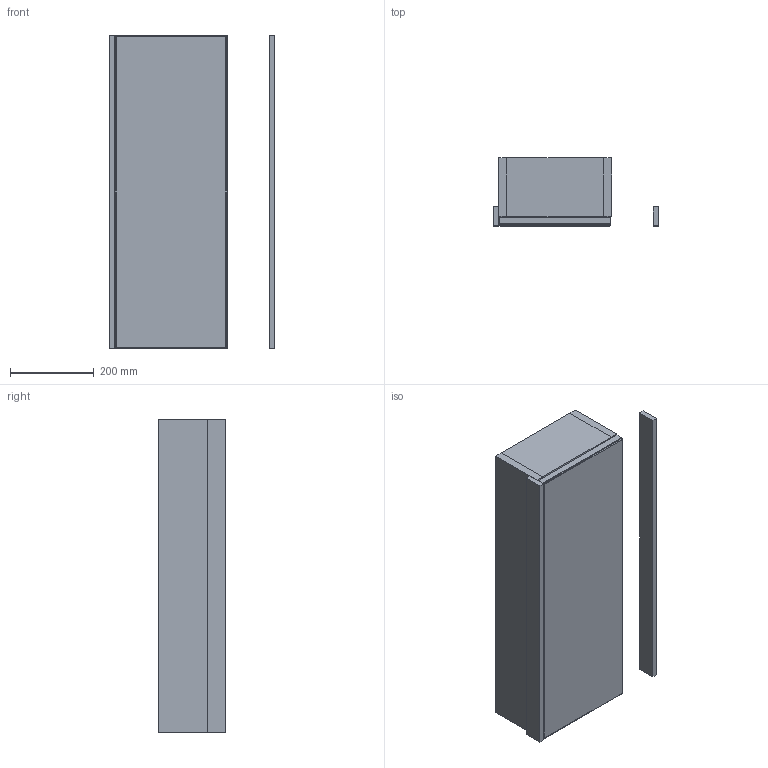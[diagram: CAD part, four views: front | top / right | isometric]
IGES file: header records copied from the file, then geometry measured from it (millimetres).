
Start section: Data from Parasolid IGES Translator 19.0.9, Copyright(c) 2006 Siemens PL M Software. All Rights Reserved.
Global section: file name: noorth-mirror-H 75 D 4,5-16 W 27_9126.igs; native system: By Siemens PLM Incorporated; preprocessor: XPlus GENERIC/IGES 19.0.9; author: Noname; organization: Noname; date: 20200519.100320; units: metre
Bounding box: 393.82 x 162 x 750 mm (x, y, z)
Volume: 10764350.3 mm3; surface area: 2129155.7 mm2
Topology: 12 solids, 12 shells, 136 faces, 264 edges, 152 vertices
Faces by surface type: plane 136
